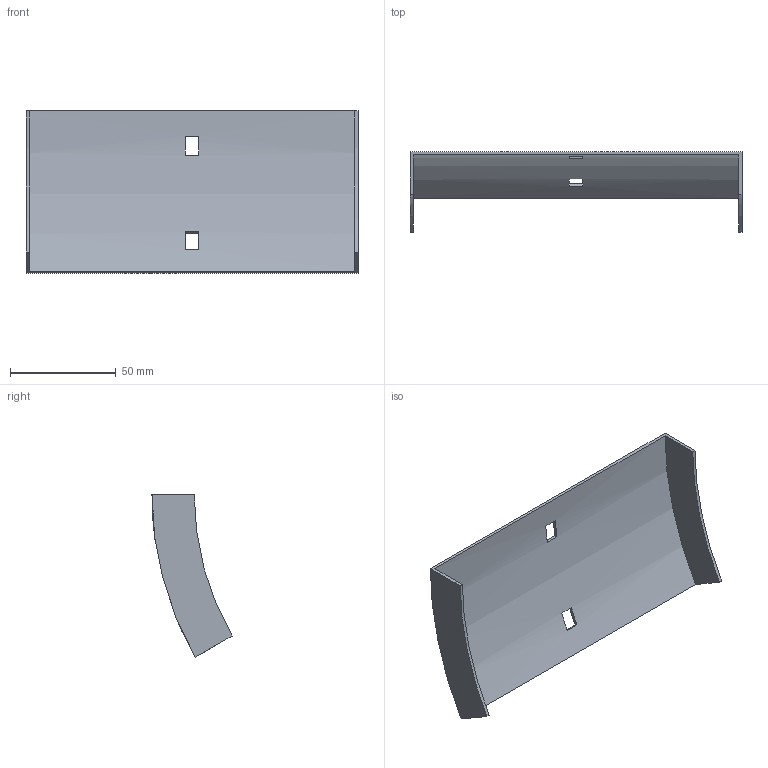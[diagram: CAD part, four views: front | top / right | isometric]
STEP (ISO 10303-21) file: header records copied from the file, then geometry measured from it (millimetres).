
FILE_DESCRIPTION (( 'STEP AP214' ), '1' );
FILE_NAME ('35N1B150.step', '2025-02-21T09:11:54', ( '' ), ( '' ), 'SwSTEP 2.0', 'SolidWorks 2023', '' );
FILE_SCHEMA (( 'AUTOMOTIVE_DESIGN' ));
Length unit declared in the file: millimetre
Products named in the file (1): 35N1B150
Bounding box: 157 x 37.89 x 76.75 mm (x, y, z)
Volume: 22806.9 mm3; surface area: 31295.7 mm2
Topology: 1 solids, 1 shells, 18 faces, 48 edges, 32 vertices
Faces by surface type: plane 14, cylinder 4
Entity records: 599 total; most frequent: DIRECTION 102, CARTESIAN_POINT 99, ORIENTED_EDGE 96, EDGE_CURVE 48, AXIS2_PLACEMENT_3D 35, VERTEX_POINT 32, LINE 32, VECTOR 32
